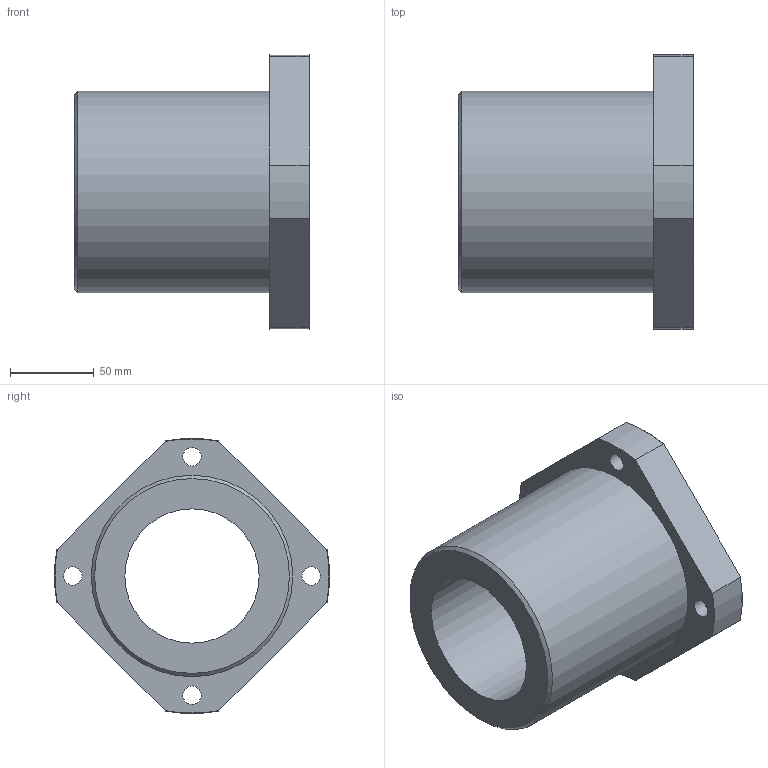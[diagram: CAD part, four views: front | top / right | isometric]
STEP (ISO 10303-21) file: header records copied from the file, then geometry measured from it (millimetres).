
FILE_DESCRIPTION(('STEP AP203'),'1');
FILE_NAME('//192.168.1.1/share/s-4 技術開発/s-4-4_CAD/s-4-4-3_見直し済み/PBC LINEAR修正済み/3D途中/SFPJ/SFPJ/SFPJ80.step','2022-03-24T05:45:45',(' '),(' '),'Spatial InterOp 3D',' ',' ');
FILE_SCHEMA(('CONFIG_CONTROL_DESIGN'));
Length unit declared in the file: millimetre
Products named in the file (1): 1
Bounding box: 140 x 163.66 x 163.66 mm (x, y, z)
Volume: 1015821.8 mm3; surface area: 118879.2 mm2
Topology: 1 solids, 1 shells, 34 faces, 84 edges, 57 vertices
Faces by surface type: cylinder 14, plane 11, cone 9
Full cylindrical faces by diameter (mm): 11 x4, 17 x4, 80 x1, 120 x1
Entity records: 1018 total; most frequent: CARTESIAN_POINT 205, DIRECTION 160, ORIENTED_EDGE 138, AXIS2_PLACEMENT_3D 72, EDGE_CURVE 69, EDGE_LOOP 60, VERTEX_POINT 53, FACE_OUTER_BOUND 44
